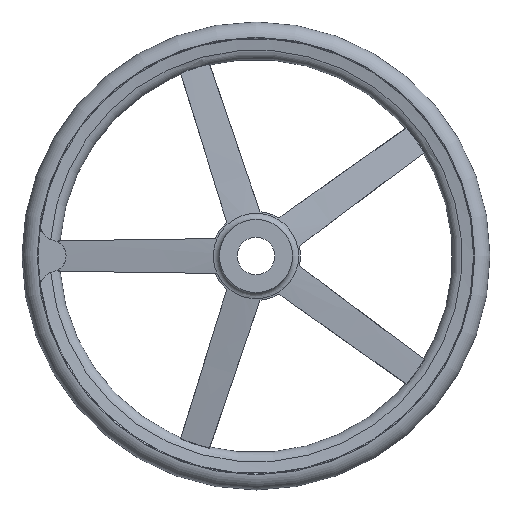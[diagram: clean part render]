
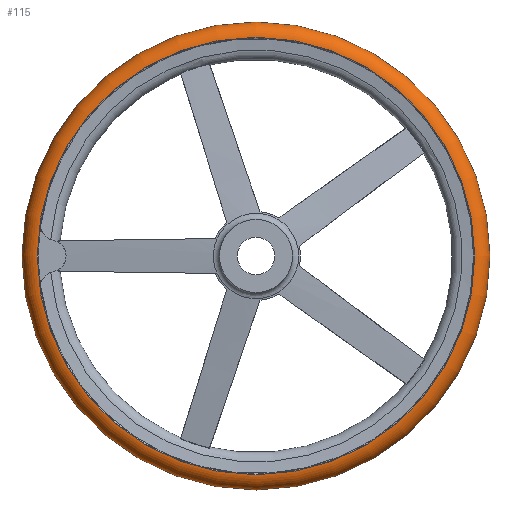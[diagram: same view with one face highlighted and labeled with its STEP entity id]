
A CAD part, left-side view. The second image highlights one B-rep face of the part: STEP entity #115.
In plain terms, the highlighted toroidal (fillet/blend) face has major radius 232.985 mm and minor radius 17.015 mm.
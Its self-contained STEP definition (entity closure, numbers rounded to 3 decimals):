
#115 = ADVANCED_FACE( '', ( #225, #226, #227 ), #228, .T. );
#225 = FACE_BOUND( '', #354, .T. );
#226 = FACE_OUTER_BOUND( '', #355, .T. );
#227 = FACE_OUTER_BOUND( '', #356, .T. );
#228 = TOROIDAL_SURFACE( '', #357, 232.985, 17.015 );
#354 = VERTEX_LOOP( '', #741 );
#355 = EDGE_LOOP( '', ( #742 ) );
#356 = EDGE_LOOP( '', ( #743 ) );
#357 = AXIS2_PLACEMENT_3D( '', #744, #745, #746 );
#741 = VERTEX_POINT( '', #976 );
#742 = ORIENTED_EDGE( '', *, *, #977, .T. );
#743 = ORIENTED_EDGE( '', *, *, #975, .F. );
#744 = CARTESIAN_POINT( '', ( 55., 0., 0. ) );
#745 = DIRECTION( '', ( -1., 0., 0. ) );
#746 = DIRECTION( '', ( 0., -1., 0. ) );
#975 = EDGE_CURVE( '', #1219, #1219, #1220, .T. );
#976 = CARTESIAN_POINT( '', ( 55., -250., 0. ) );
#977 = EDGE_CURVE( '', #1221, #1221, #1222, .T. );
#1219 = VERTEX_POINT( '', #2096 );
#1220 = CIRCLE( '', #2097, 233.708 );
#1221 = VERTEX_POINT( '', #2098 );
#1222 = CIRCLE( '', #2099, 233.708 );
#2096 = CARTESIAN_POINT( '', ( 38., -233.708, 0. ) );
#2097 = AXIS2_PLACEMENT_3D( '', #2323, #2324, #2325 );
#2098 = CARTESIAN_POINT( '', ( 72., -233.708, 0. ) );
#2099 = AXIS2_PLACEMENT_3D( '', #2326, #2327, #2328 );
#2323 = CARTESIAN_POINT( '', ( 38., 0., 0. ) );
#2324 = DIRECTION( '', ( -1., 0., 0. ) );
#2325 = DIRECTION( '', ( 0., -1., 0. ) );
#2326 = CARTESIAN_POINT( '', ( 72., 0., 0. ) );
#2327 = DIRECTION( '', ( -1., 0., 0. ) );
#2328 = DIRECTION( '', ( 0., -1., 0. ) );
